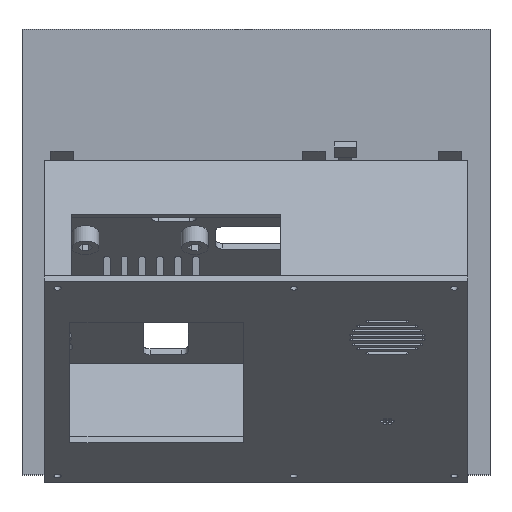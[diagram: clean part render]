
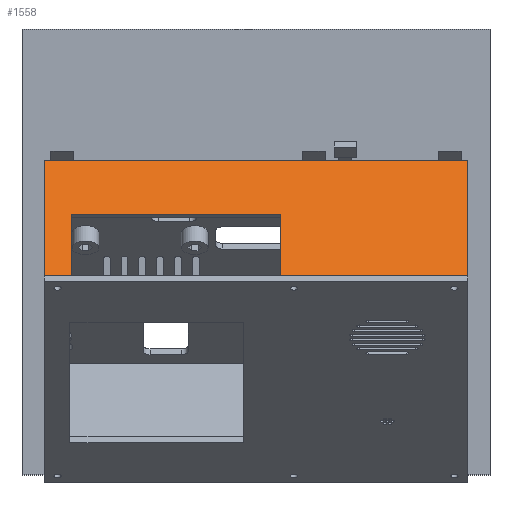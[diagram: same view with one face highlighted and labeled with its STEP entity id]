
A CAD part, top view. The second image highlights one B-rep face of the part: STEP entity #1558.
In plain terms, the highlighted planar face has unit normal (0, 0.5, 0.866).
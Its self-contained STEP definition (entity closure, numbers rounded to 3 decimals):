
#62 = PLANE('',#63);
#63 = AXIS2_PLACEMENT_3D('',#64,#65,#66);
#64 = CARTESIAN_POINT('',(10.,36.,18.));
#65 = DIRECTION('',(1.,0.,0.));
#66 = DIRECTION('',(0.,-0.866,0.5));
#74 = PLANE('',#75);
#75 = AXIS2_PLACEMENT_3D('',#76,#77,#78);
#76 = CARTESIAN_POINT('',(10.,-15.962,48.));
#77 = DIRECTION('',(0.,-0.866,0.5));
#78 = DIRECTION('',(1.,0.,0.));
#115 = VERTEX_POINT('',#116);
#116 = CARTESIAN_POINT('',(10.,126.,173.885));
#130 = PLANE('',#131);
#131 = AXIS2_PLACEMENT_3D('',#132,#133,#134);
#132 = CARTESIAN_POINT('',(10.,36.,18.));
#133 = DIRECTION('',(0.,-0.866,0.5));
#134 = DIRECTION('',(1.,0.,0.));
#142 = EDGE_CURVE('',#115,#143,#145,.T.);
#143 = VERTEX_POINT('',#144);
#144 = CARTESIAN_POINT('',(10.,74.038,203.885));
#145 = SURFACE_CURVE('',#146,(#150,#157),.PCURVE_S1.);
#146 = LINE('',#147,#148);
#147 = CARTESIAN_POINT('',(10.,126.,173.885));
#148 = VECTOR('',#149,1.);
#149 = DIRECTION('',(0.,-0.866,0.5));
#150 = PCURVE('',#62,#151);
#151 = DEFINITIONAL_REPRESENTATION('',(#152),#156);
#152 = LINE('',#153,#154);
#153 = CARTESIAN_POINT('',(0.,-180.));
#154 = VECTOR('',#155,1.);
#155 = DIRECTION('',(1.,0.));
#156 = ( GEOMETRIC_REPRESENTATION_CONTEXT(2) 
PARAMETRIC_REPRESENTATION_CONTEXT() REPRESENTATION_CONTEXT('2D SPACE',''
  ) );
#157 = PCURVE('',#158,#163);
#158 = PLANE('',#159);
#159 = AXIS2_PLACEMENT_3D('',#160,#161,#162);
#160 = CARTESIAN_POINT('',(10.,126.,173.885));
#161 = DIRECTION('',(0.,0.5,0.866));
#162 = DIRECTION('',(0.,-0.866,0.5));
#163 = DEFINITIONAL_REPRESENTATION('',(#164),#168);
#164 = LINE('',#165,#166);
#165 = CARTESIAN_POINT('',(0.,0.));
#166 = VECTOR('',#167,1.);
#167 = DIRECTION('',(1.,0.));
#168 = ( GEOMETRIC_REPRESENTATION_CONTEXT(2) 
PARAMETRIC_REPRESENTATION_CONTEXT() REPRESENTATION_CONTEXT('2D SPACE',''
  ) );
#186 = PLANE('',#187);
#187 = AXIS2_PLACEMENT_3D('',#188,#189,#190);
#188 = CARTESIAN_POINT('',(10.,-15.962,48.));
#189 = DIRECTION('',(0.,-0.866,0.5));
#190 = DIRECTION('',(1.,0.,0.));
#308 = VERTEX_POINT('',#309);
#309 = CARTESIAN_POINT('',(200.,74.038,203.885));
#323 = PLANE('',#324);
#324 = AXIS2_PLACEMENT_3D('',#325,#326,#327);
#325 = CARTESIAN_POINT('',(200.,36.,18.));
#326 = DIRECTION('',(1.,0.,0.));
#327 = DIRECTION('',(0.,-0.866,0.5));
#335 = EDGE_CURVE('',#336,#308,#338,.T.);
#336 = VERTEX_POINT('',#337);
#337 = CARTESIAN_POINT('',(116.,74.038,203.885));
#338 = SURFACE_CURVE('',#339,(#343,#350),.PCURVE_S1.);
#339 = LINE('',#340,#341);
#340 = CARTESIAN_POINT('',(10.,74.038,203.885));
#341 = VECTOR('',#342,1.);
#342 = DIRECTION('',(1.,0.,0.));
#343 = PCURVE('',#74,#344);
#344 = DEFINITIONAL_REPRESENTATION('',(#345),#349);
#345 = LINE('',#346,#347);
#346 = CARTESIAN_POINT('',(0.,180.));
#347 = VECTOR('',#348,1.);
#348 = DIRECTION('',(1.,0.));
#349 = ( GEOMETRIC_REPRESENTATION_CONTEXT(2) 
PARAMETRIC_REPRESENTATION_CONTEXT() REPRESENTATION_CONTEXT('2D SPACE',''
  ) );
#350 = PCURVE('',#158,#351);
#351 = DEFINITIONAL_REPRESENTATION('',(#352),#356);
#352 = LINE('',#353,#354);
#353 = CARTESIAN_POINT('',(60.,0.));
#354 = VECTOR('',#355,1.);
#355 = DIRECTION('',(0.,1.));
#356 = ( GEOMETRIC_REPRESENTATION_CONTEXT(2) 
PARAMETRIC_REPRESENTATION_CONTEXT() REPRESENTATION_CONTEXT('2D SPACE',''
  ) );
#374 = PLANE('',#375);
#375 = AXIS2_PLACEMENT_3D('',#376,#377,#378);
#376 = CARTESIAN_POINT('',(116.,99.751,184.42));
#377 = DIRECTION('',(1.,0.,0.));
#378 = DIRECTION('',(0.,-0.866,0.5));
#1365 = VERTEX_POINT('',#1366);
#1366 = CARTESIAN_POINT('',(22.,74.038,203.885));
#1380 = PLANE('',#1381);
#1381 = AXIS2_PLACEMENT_3D('',#1382,#1383,#1384);
#1382 = CARTESIAN_POINT('',(22.,99.751,184.42));
#1383 = DIRECTION('',(1.,0.,0.));
#1384 = DIRECTION('',(0.,-0.866,0.5));
#1392 = EDGE_CURVE('',#143,#1365,#1393,.T.);
#1393 = SURFACE_CURVE('',#1394,(#1398,#1405),.PCURVE_S1.);
#1394 = LINE('',#1395,#1396);
#1395 = CARTESIAN_POINT('',(10.,74.038,203.885));
#1396 = VECTOR('',#1397,1.);
#1397 = DIRECTION('',(1.,0.,0.));
#1398 = PCURVE('',#186,#1399);
#1399 = DEFINITIONAL_REPRESENTATION('',(#1400),#1404);
#1400 = LINE('',#1401,#1402);
#1401 = CARTESIAN_POINT('',(0.,180.));
#1402 = VECTOR('',#1403,1.);
#1403 = DIRECTION('',(1.,0.));
#1404 = ( GEOMETRIC_REPRESENTATION_CONTEXT(2) 
PARAMETRIC_REPRESENTATION_CONTEXT() REPRESENTATION_CONTEXT('2D SPACE',''
  ) );
#1405 = PCURVE('',#158,#1406);
#1406 = DEFINITIONAL_REPRESENTATION('',(#1407),#1411);
#1407 = LINE('',#1408,#1409);
#1408 = CARTESIAN_POINT('',(60.,0.));
#1409 = VECTOR('',#1410,1.);
#1410 = DIRECTION('',(0.,1.));
#1411 = ( GEOMETRIC_REPRESENTATION_CONTEXT(2) 
PARAMETRIC_REPRESENTATION_CONTEXT() REPRESENTATION_CONTEXT('2D SPACE',''
  ) );
#1558 = ADVANCED_FACE('',(#1559),#158,.T.);
#1559 = FACE_BOUND('',#1560,.T.);
#1560 = EDGE_LOOP('',(#1561,#1584,#1605,#1606,#1607,#1630,#1658,#1679));
#1561 = ORIENTED_EDGE('',*,*,#1562,.F.);
#1562 = EDGE_CURVE('',#1563,#308,#1565,.T.);
#1563 = VERTEX_POINT('',#1564);
#1564 = CARTESIAN_POINT('',(200.,126.,173.885));
#1565 = SURFACE_CURVE('',#1566,(#1570,#1577),.PCURVE_S1.);
#1566 = LINE('',#1567,#1568);
#1567 = CARTESIAN_POINT('',(200.,126.,173.885));
#1568 = VECTOR('',#1569,1.);
#1569 = DIRECTION('',(0.,-0.866,0.5));
#1570 = PCURVE('',#158,#1571);
#1571 = DEFINITIONAL_REPRESENTATION('',(#1572),#1576);
#1572 = LINE('',#1573,#1574);
#1573 = CARTESIAN_POINT('',(0.,190.));
#1574 = VECTOR('',#1575,1.);
#1575 = DIRECTION('',(1.,0.));
#1576 = ( GEOMETRIC_REPRESENTATION_CONTEXT(2) 
PARAMETRIC_REPRESENTATION_CONTEXT() REPRESENTATION_CONTEXT('2D SPACE',''
  ) );
#1577 = PCURVE('',#323,#1578);
#1578 = DEFINITIONAL_REPRESENTATION('',(#1579),#1583);
#1579 = LINE('',#1580,#1581);
#1580 = CARTESIAN_POINT('',(0.,-180.));
#1581 = VECTOR('',#1582,1.);
#1582 = DIRECTION('',(1.,0.));
#1583 = ( GEOMETRIC_REPRESENTATION_CONTEXT(2) 
PARAMETRIC_REPRESENTATION_CONTEXT() REPRESENTATION_CONTEXT('2D SPACE',''
  ) );
#1584 = ORIENTED_EDGE('',*,*,#1585,.F.);
#1585 = EDGE_CURVE('',#115,#1563,#1586,.T.);
#1586 = SURFACE_CURVE('',#1587,(#1591,#1598),.PCURVE_S1.);
#1587 = LINE('',#1588,#1589);
#1588 = CARTESIAN_POINT('',(10.,126.,173.885));
#1589 = VECTOR('',#1590,1.);
#1590 = DIRECTION('',(1.,0.,0.));
#1591 = PCURVE('',#158,#1592);
#1592 = DEFINITIONAL_REPRESENTATION('',(#1593),#1597);
#1593 = LINE('',#1594,#1595);
#1594 = CARTESIAN_POINT('',(0.,0.));
#1595 = VECTOR('',#1596,1.);
#1596 = DIRECTION('',(0.,1.));
#1597 = ( GEOMETRIC_REPRESENTATION_CONTEXT(2) 
PARAMETRIC_REPRESENTATION_CONTEXT() REPRESENTATION_CONTEXT('2D SPACE',''
  ) );
#1598 = PCURVE('',#130,#1599);
#1599 = DEFINITIONAL_REPRESENTATION('',(#1600),#1604);
#1600 = LINE('',#1601,#1602);
#1601 = CARTESIAN_POINT('',(0.,180.));
#1602 = VECTOR('',#1603,1.);
#1603 = DIRECTION('',(1.,0.));
#1604 = ( GEOMETRIC_REPRESENTATION_CONTEXT(2) 
PARAMETRIC_REPRESENTATION_CONTEXT() REPRESENTATION_CONTEXT('2D SPACE',''
  ) );
#1605 = ORIENTED_EDGE('',*,*,#142,.T.);
#1606 = ORIENTED_EDGE('',*,*,#1392,.T.);
#1607 = ORIENTED_EDGE('',*,*,#1608,.T.);
#1608 = EDGE_CURVE('',#1365,#1609,#1611,.T.);
#1609 = VERTEX_POINT('',#1610);
#1610 = CARTESIAN_POINT('',(22.,101.751,187.885));
#1611 = SURFACE_CURVE('',#1612,(#1616,#1623),.PCURVE_S1.);
#1612 = LINE('',#1613,#1614);
#1613 = CARTESIAN_POINT('',(22.,113.876,180.885));
#1614 = VECTOR('',#1615,1.);
#1615 = DIRECTION('',(0.,0.866,-0.5));
#1616 = PCURVE('',#158,#1617);
#1617 = DEFINITIONAL_REPRESENTATION('',(#1618),#1622);
#1618 = LINE('',#1619,#1620);
#1619 = CARTESIAN_POINT('',(14.,12.));
#1620 = VECTOR('',#1621,1.);
#1621 = DIRECTION('',(-1.,0.));
#1622 = ( GEOMETRIC_REPRESENTATION_CONTEXT(2) 
PARAMETRIC_REPRESENTATION_CONTEXT() REPRESENTATION_CONTEXT('2D SPACE',''
  ) );
#1623 = PCURVE('',#1380,#1624);
#1624 = DEFINITIONAL_REPRESENTATION('',(#1625),#1629);
#1625 = LINE('',#1626,#1627);
#1626 = CARTESIAN_POINT('',(-14.,-4.));
#1627 = VECTOR('',#1628,1.);
#1628 = DIRECTION('',(-1.,0.));
#1629 = ( GEOMETRIC_REPRESENTATION_CONTEXT(2) 
PARAMETRIC_REPRESENTATION_CONTEXT() REPRESENTATION_CONTEXT('2D SPACE',''
  ) );
#1630 = ORIENTED_EDGE('',*,*,#1631,.T.);
#1631 = EDGE_CURVE('',#1609,#1632,#1634,.T.);
#1632 = VERTEX_POINT('',#1633);
#1633 = CARTESIAN_POINT('',(116.,101.751,187.885));
#1634 = SURFACE_CURVE('',#1635,(#1639,#1646),.PCURVE_S1.);
#1635 = LINE('',#1636,#1637);
#1636 = CARTESIAN_POINT('',(16.,101.751,187.885));
#1637 = VECTOR('',#1638,1.);
#1638 = DIRECTION('',(1.,0.,0.));
#1639 = PCURVE('',#158,#1640);
#1640 = DEFINITIONAL_REPRESENTATION('',(#1641),#1645);
#1641 = LINE('',#1642,#1643);
#1642 = CARTESIAN_POINT('',(28.,6.));
#1643 = VECTOR('',#1644,1.);
#1644 = DIRECTION('',(0.,1.));
#1645 = ( GEOMETRIC_REPRESENTATION_CONTEXT(2) 
PARAMETRIC_REPRESENTATION_CONTEXT() REPRESENTATION_CONTEXT('2D SPACE',''
  ) );
#1646 = PCURVE('',#1647,#1652);
#1647 = PLANE('',#1648);
#1648 = AXIS2_PLACEMENT_3D('',#1649,#1650,#1651);
#1649 = CARTESIAN_POINT('',(22.,99.751,184.42));
#1650 = DIRECTION('',(0.,-0.866,0.5));
#1651 = DIRECTION('',(1.,0.,0.));
#1652 = DEFINITIONAL_REPRESENTATION('',(#1653),#1657);
#1653 = LINE('',#1654,#1655);
#1654 = CARTESIAN_POINT('',(-6.,4.));
#1655 = VECTOR('',#1656,1.);
#1656 = DIRECTION('',(1.,0.));
#1657 = ( GEOMETRIC_REPRESENTATION_CONTEXT(2) 
PARAMETRIC_REPRESENTATION_CONTEXT() REPRESENTATION_CONTEXT('2D SPACE',''
  ) );
#1658 = ORIENTED_EDGE('',*,*,#1659,.F.);
#1659 = EDGE_CURVE('',#336,#1632,#1660,.T.);
#1660 = SURFACE_CURVE('',#1661,(#1665,#1672),.PCURVE_S1.);
#1661 = LINE('',#1662,#1663);
#1662 = CARTESIAN_POINT('',(116.,113.876,180.885));
#1663 = VECTOR('',#1664,1.);
#1664 = DIRECTION('',(0.,0.866,-0.5));
#1665 = PCURVE('',#158,#1666);
#1666 = DEFINITIONAL_REPRESENTATION('',(#1667),#1671);
#1667 = LINE('',#1668,#1669);
#1668 = CARTESIAN_POINT('',(14.,106.));
#1669 = VECTOR('',#1670,1.);
#1670 = DIRECTION('',(-1.,0.));
#1671 = ( GEOMETRIC_REPRESENTATION_CONTEXT(2) 
PARAMETRIC_REPRESENTATION_CONTEXT() REPRESENTATION_CONTEXT('2D SPACE',''
  ) );
#1672 = PCURVE('',#374,#1673);
#1673 = DEFINITIONAL_REPRESENTATION('',(#1674),#1678);
#1674 = LINE('',#1675,#1676);
#1675 = CARTESIAN_POINT('',(-14.,-4.));
#1676 = VECTOR('',#1677,1.);
#1677 = DIRECTION('',(-1.,0.));
#1678 = ( GEOMETRIC_REPRESENTATION_CONTEXT(2) 
PARAMETRIC_REPRESENTATION_CONTEXT() REPRESENTATION_CONTEXT('2D SPACE',''
  ) );
#1679 = ORIENTED_EDGE('',*,*,#335,.T.);
